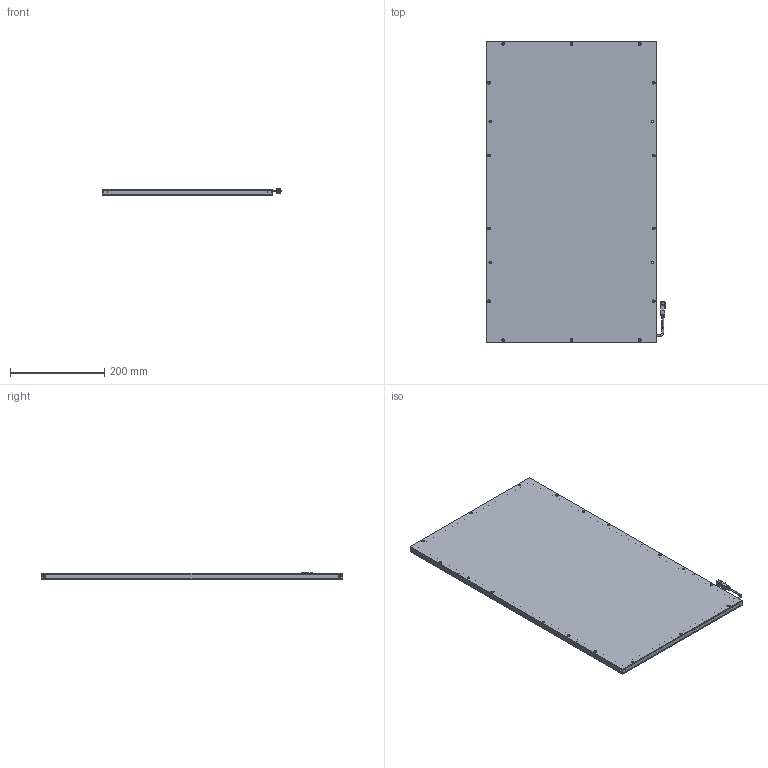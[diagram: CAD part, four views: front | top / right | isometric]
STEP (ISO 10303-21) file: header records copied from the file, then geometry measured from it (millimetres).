
FILE_DESCRIPTION (( 'STEP AP203' ), '1' );
FILE_NAME ('CRT-FLC600320-¼òÒ×3DÍ¼.STEP', '2021-11-29T03:45:58', ( 'Admin' ), ( '' ), 'SwSTEP 2.0', 'SolidWorks 2018', '' );
FILE_SCHEMA (( 'CONFIG_CONTROL_DESIGN' ));
Length unit declared in the file: millimetre
Products named in the file (1): CRT-FLC600320-潠眢3D芞
Bounding box: 379.45 x 640 x 14.85 mm (x, y, z)
Surface area: 529742.7 mm2 (no closed solid volume)
Topology: 0 solids, 18 shells, 246 faces, 856 edges, 609 vertices
Faces by surface type: plane 108, cylinder 99, cone 31, bspline 8
Entity records: 9649 total; most frequent: CARTESIAN_POINT 2256, DIRECTION 1586, ORIENTED_EDGE 1270, EDGE_CURVE 854, VERTEX_POINT 609, AXIS2_PLACEMENT_3D 537, LINE 512, VECTOR 512
